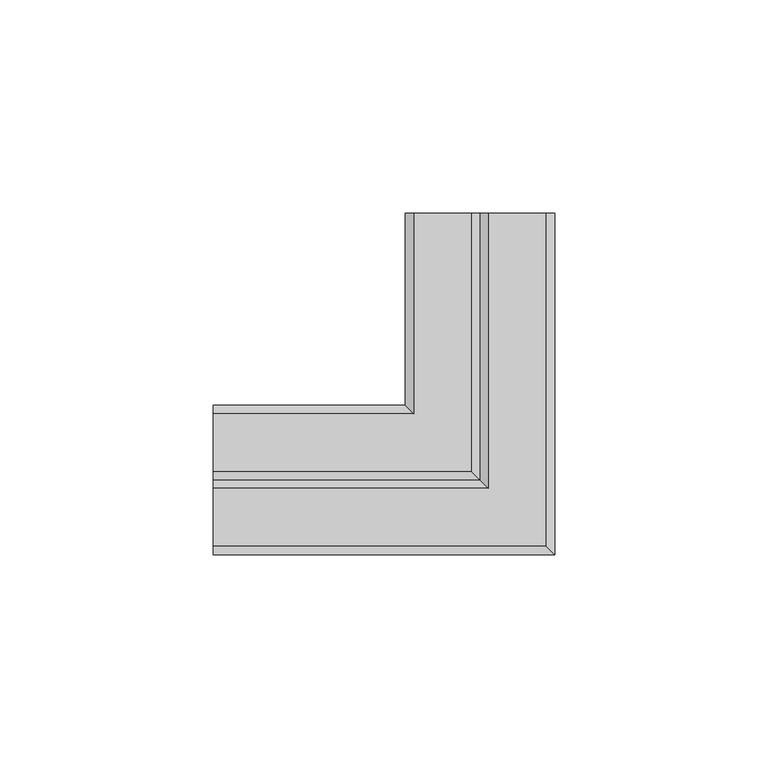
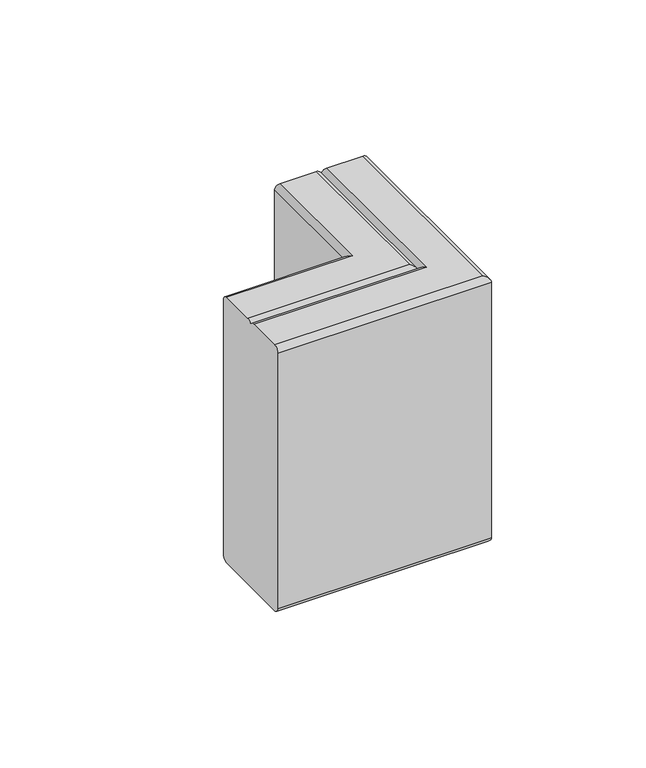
"""IFC4 building model written with IfcOpenShell, lengths in millimetres: duct fitting geometry, Угол плоский 90° - для кабель-каналов DLP - белый : 65х220мм."""

import ifcopenshell
import ifcopenshell.guid

model = None  # the IFC model being written
_history = None  # IfcOwnerHistory: only IFC2X3 demands one
_inside = {}  # id of a spatial element -> (the spatial element, [elements in it])
_under = {}  # id of a project, library or spatial element -> (it, [spatial elements below it])
_declared = {}  # id of a project -> (the project, [libraries it declares])
_typed = {}  # id of a type object -> (the type object, [elements of that type])
_made_of = {}  # id of a material, layer set ... -> (it, [elements and type objects made of it])


def new_model(schema):
    """Start an empty IFC model of exactly this schema.

    Asked for "IFC4X3", IfcOpenShell would pick the latest addendum, in which some entities
    have other attributes; the version numbers below select the first issue.
    IFC2X3 requires an IfcOwnerHistory on every rooted entity: one is made here for all.
    """
    global model, _history
    if schema == "IFC4X3":
        model = ifcopenshell.file(schema_version=(4, 3, 0, 0))
    else:
        model = ifcopenshell.file(schema=schema)
    _inside.clear()
    _under.clear()
    _declared.clear()
    _typed.clear()
    _made_of.clear()
    _history = None
    if model.schema == "IFC2X3":
        org = make("IfcOrganization", Name="unknown")
        user = make(
            "IfcPersonAndOrganization",
            ThePerson=make("IfcPerson", FamilyName="unknown"),
            TheOrganization=org,
        )
        app = make(
            "IfcApplication",
            ApplicationDeveloper=org,
            Version="unknown",
            ApplicationFullName="unknown",
            ApplicationIdentifier="unknown",
        )
        _history = make(
            "IfcOwnerHistory",
            OwningUser=user,
            OwningApplication=app,
            ChangeAction="ADDED",
            CreationDate=0,
        )
    return model


def make(cls, **values):
    """One entity of the class cls with the attributes given. An attribute that is None is left unset."""
    return model.create_entity(
        cls, **{name: value for name, value in values.items() if value is not None}
    )


def rooted(cls, **values):
    """An entity with a GlobalId (a new one), such as an element, a storey or a relation."""
    return make(cls, GlobalId=ifcopenshell.guid.new(), OwnerHistory=_history, **values)


def si_unit(unit_type, name, prefix=None):
    """IfcSIUnit, for example si_unit("LENGTHUNIT", "METRE", prefix="MILLI")."""
    return make("IfcSIUnit", UnitType=unit_type, Prefix=prefix, Name=name)


def assignment(units):
    """IfcUnitAssignment: the units of a project."""
    return None if units is None else make("IfcUnitAssignment", Units=units)


def point(xyz):
    """IfcCartesianPoint."""
    return None if xyz is None else make("IfcCartesianPoint", Coordinates=xyz)


def direction(xyz):
    """IfcDirection."""
    return None if xyz is None else make("IfcDirection", DirectionRatios=xyz)


def frame(location, z_axis=None, x_axis=None):
    """IfcAxis2Placement3D, a coordinate frame: its origin and axes. An axis left out is left unset."""
    return make(
        "IfcAxis2Placement3D",
        Location=point(location),
        Axis=direction(z_axis),
        RefDirection=direction(x_axis),
    )


def origin():
    """The frame at (0, 0, 0) with its axes left unset."""
    return frame((0.0, 0.0, 0.0))


def place(relative_to, where):
    """IfcLocalPlacement: puts the frame where relative to a parent placement (None: the world)."""
    return make(
        "IfcLocalPlacement", PlacementRelTo=relative_to, RelativePlacement=where
    )


def context(
    kind, dimensions, precision=None, world=None, true_north=None, identifier=None
):
    """IfcGeometricRepresentationContext, for example the 3D "Model" context."""
    return make(
        "IfcGeometricRepresentationContext",
        ContextIdentifier=identifier,
        ContextType=kind,
        CoordinateSpaceDimension=dimensions,
        Precision=precision,
        WorldCoordinateSystem=world,
        TrueNorth=true_north,
    )


def project(units=None, contexts=None):
    """IfcProject with its units and contexts."""
    return rooted(
        "IfcProject",
        Name="project",
        RepresentationContexts=contexts,
        UnitsInContext=assignment(units),
    )


def spatial(cls, under=None, at=None, **own):
    """A site, building, storey or space (cls), placed at a placement, below another one or the project."""
    s = rooted(cls, ObjectPlacement=at, **own)
    if under is not None:
        _under.setdefault(under.id(), (under, []))[1].append(s)
    return s


def circle_curve(where, radius):
    """IfcCircle in the frame where."""
    return make("IfcCircle", Position=where, Radius=radius)


def ellipse_curve(where, semi_axis1, semi_axis2):
    """IfcEllipse in the frame where."""
    return make(
        "IfcEllipse", Position=where, SemiAxis1=semi_axis1, SemiAxis2=semi_axis2
    )


def shape(context_of_items, identifier, shape_type, items):
    """IfcShapeRepresentation: the items that make up one representation, for example the "Body"."""
    return make(
        "IfcShapeRepresentation",
        ContextOfItems=context_of_items,
        RepresentationIdentifier=identifier,
        RepresentationType=shape_type,
        Items=items,
    )


def source(mapping_origin, context_of_items, identifier, shape_type, items):
    """IfcRepresentationMap: a shape defined once, which mapped items show again and again."""
    return make(
        "IfcRepresentationMap",
        MappingOrigin=mapping_origin,
        MappedRepresentation=shape(context_of_items, identifier, shape_type, items),
    )


def transform(
    local_origin,
    x_axis=None,
    y_axis=None,
    z_axis=None,
    scale=None,
    scale2=None,
    scale3=None,
    uniform=True,
):
    """IfcCartesianTransformationOperator3D, or its non-uniform kind. x_axis, y_axis, z_axis: its Axis1, 2, 3."""
    if uniform:
        return make(
            "IfcCartesianTransformationOperator3D",
            Axis1=direction(x_axis),
            Axis2=direction(y_axis),
            LocalOrigin=point(local_origin),
            Scale=scale,
            Axis3=direction(z_axis),
        )
    return make(
        "IfcCartesianTransformationOperator3DnonUniform",
        Axis1=direction(x_axis),
        Axis2=direction(y_axis),
        LocalOrigin=point(local_origin),
        Scale=scale,
        Axis3=direction(z_axis),
        Scale2=scale2,
        Scale3=scale3,
    )


def mapped(mapping_source, mapping_target):
    """IfcMappedItem: shows the shape of a source again, moved by a transform."""
    return make(
        "IfcMappedItem", MappingSource=mapping_source, MappingTarget=mapping_target
    )


def made_of(thing, what):
    """Note that an element or type object is made of a material, layer set ...; save() writes the relation."""
    if what is not None:
        _made_of.setdefault(what.id(), (what, []))[1].append(thing)
    return thing


def element(
    cls,
    number,
    at=None,
    inside=None,
    cuts=None,
    type_object=None,
    material=None,
    context=None,
    identifier="Body",
    shape_type=None,
    held_by="IfcProductDefinitionShape",
    body=None,
    shapes=None,
    **own,
):
    """One element of the class cls, such as IfcWall. Its Tag is "e" and its number.

    at: its placement. inside: the storey or other place that contains it. cuts: it is an
    opening in that element (IfcRelVoidsElement). A single representation is given by context,
    identifier, shape_type and body (its items); several are given by shapes. held_by: the class
    of the entity that holds the representations. save() writes the other relations.
    """
    e = rooted(cls, Tag="e%d" % number, ObjectPlacement=at, **own)
    if body is not None:
        shapes = [shape(context, identifier, shape_type, body)]
    if shapes is not None:
        e.Representation = make(held_by, Representations=shapes)
    if inside is not None:
        _inside.setdefault(inside.id(), (inside, []))[1].append(e)
    if cuts is not None:
        rooted(
            "IfcRelVoidsElement", RelatingBuildingElement=cuts, RelatedOpeningElement=e
        )
    if type_object is not None:
        _typed.setdefault(type_object.id(), (type_object, []))[1].append(e)
    return made_of(e, material)


def aggregate(whole, parts):
    """IfcRelAggregates: a whole, such as a stair, and the parts it consists of."""
    return rooted("IfcRelAggregates", RelatingObject=whole, RelatedObjects=parts)


def save(model, path):
    """Write the relations noted so far, then the file.

    IfcRelAggregates (storeys below a building ...), IfcRelContainedInSpatialStructure (elements
    in a storey), IfcRelDefinesByType, IfcRelAssociatesMaterial and IfcRelDeclares: one each for
    every whole, place, type object, material and project.
    """
    for whole, parts in _under.values():
        aggregate(whole, parts)
    for where, things in _inside.values():
        rooted(
            "IfcRelContainedInSpatialStructure",
            RelatedElements=things,
            RelatingStructure=where,
        )
    for kind, things in _typed.values():
        rooted("IfcRelDefinesByType", RelatedObjects=things, RelatingType=kind)
    for what, things in _made_of.values():
        rooted("IfcRelAssociatesMaterial", RelatedObjects=things, RelatingMaterial=what)
    for by, libraries in _declared.values():
        rooted("IfcRelDeclares", RelatingContext=by, RelatedDefinitions=libraries)
    model.write(path)


def plane_surface(at):
    """IfcPlane: the flat surface through the origin of the frame at, square to its z axis."""
    return make("IfcPlane", Position=at)


def cylinder_surface(at, radius):
    """IfcCylindricalSurface: all points at the distance radius from the z axis of the frame at."""
    return make("IfcCylindricalSurface", Position=at, Radius=radius)


def advanced_brep(points, edges, surfaces, faces):
    """IfcAdvancedBrep: a solid bounded by faces that lie on surfaces and meet in shared edges.

    An edge is (start, end): straight between two places in points (the first is 0);
    or (start, end, curve); or (start, end, curve, False) where it runs against its curve.
    A face is (place in surfaces, loops), or (place, loops, False) where it looks against
    its surface's normal. A loop lists edges by number (the first is 1), with a minus sign
    where the edge is run from its end to its start. The first loop is the outer one.
    """
    corners = [point(p) for p in points]
    vertices = [make("IfcVertexPoint", VertexGeometry=c) for c in corners]
    made = []
    for start, end, *more in edges:
        made.append(
            make(
                "IfcEdgeCurve",
                EdgeStart=vertices[start],
                EdgeEnd=vertices[end],
                EdgeGeometry=more[0] if more else make("IfcPolyline", Points=[corners[start], corners[end]]),
                SameSense=more[1] if len(more) > 1 else True,
            )
        )
    hull = []
    for where, loops, *sense in faces:
        bounds = []
        for j, loop in enumerate(loops):
            ring = [make("IfcOrientedEdge", EdgeElement=made[abs(k) - 1], Orientation=k > 0) for k in loop]
            bounds.append(
                make(
                    "IfcFaceOuterBound" if j == 0 else "IfcFaceBound",
                    Bound=make("IfcEdgeLoop", EdgeList=ring),
                    Orientation=True,
                )
            )
        hull.append(make("IfcAdvancedFace", Bounds=bounds, FaceSurface=surfaces[where], SameSense=sense[0] if sense else True))
    return make("IfcAdvancedBrep", Outer=make("IfcClosedShell", CfsFaces=hull))


def duct_fitting_be0ce938(model_context):
    return source(origin(), model_context, "Body", "AdvancedBrep", [
        advanced_brep(
        [(-2.0, 62.5, 49.5407457), (0.0, 62.5, 47.5407457), (2.0, 62.5, 49.5407457), (15.5, 62.5, 49.5407457), (17.5, 62.5, 47.5407457), (17.5, 62.5, -53.4592543), (15.5, 62.5, -55.4592543), (-15.5, 62.5, -55.4592543), (-17.5, 62.5, -53.4592543), (-17.5, 62.5, 47.5407457), (-15.5, 62.5, 49.5407457), (15.5, -15.5, 49.5407457), (17.5, -17.5, 47.5407457), (17.5, -17.5, -53.4592543), (15.5, -15.5, -55.4592543), (-62.5, -15.5, -55.4592543), (-62.5, 15.5, -55.4592543), (-15.5, 15.5, -55.4592543), (-17.5, 17.5, -53.4592543), (-17.5, 17.5, 47.5407457), (-15.5, 15.5, 49.5407457), (-62.5, 15.5, 49.5407457), (-62.5, 2.0, 49.5407457), (-2.0, 2.0, 49.5407457), (-62.5, 17.5, 47.5407457), (-62.5, 17.5, -53.4592543), (-62.5, -17.5, -53.4592543), (-62.5, -17.5, 47.5407457), (-62.5, -15.5, 49.5407457), (-62.5, -2.0, 49.5407457), (-62.5, 0.0, 47.5407457), (0.0, 0.0, 47.5407457), (2.0, -2.0, 49.5407457)],
        [
            (0, 1, circle_curve(frame((-2.0, 62.5, 47.5407457), z_axis=(0.0, 1.0, 0.0), x_axis=(1.0, 0.0, 0.0)), 2.0)),
            (1, 2, circle_curve(frame((2.0, 62.5, 47.5407457), z_axis=(0.0, 1.0, 0.0), x_axis=(1.0, 0.0, 0.0)), 2.0)),
            (2, 3),
            (3, 4, circle_curve(frame((15.5, 62.5, 47.5407457), z_axis=(0.0, 1.0, 0.0), x_axis=(1.0, 0.0, 0.0)), 2.0)),
            (4, 5),
            (5, 6, circle_curve(frame((15.5, 62.5, -53.4592543), z_axis=(0.0, 1.0, 0.0), x_axis=(1.0, 0.0, 0.0)), 2.0)),
            (6, 7),
            (7, 8, circle_curve(frame((-15.5, 62.5, -53.4592543), z_axis=(0.0, 1.0, 0.0), x_axis=(1.0, 0.0, 0.0)), 2.0)),
            (8, 9),
            (9, 10, circle_curve(frame((-15.5, 62.5, 47.5407457), z_axis=(0.0, 1.0, 0.0), x_axis=(1.0, 0.0, 0.0)), 2.0)),
            (10, 0),
            (3, 11),
            (11, 12, ellipse_curve(frame((15.5, -15.5, 47.5407457), z_axis=(0.7071067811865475, 0.7071067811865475, 0.0), x_axis=(-0.7071067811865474, 0.7071067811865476, 0.0)), 2.8284271, 2.0)),
            (12, 4),
            (12, 13),
            (13, 5),
            (13, 14, ellipse_curve(frame((15.5, -15.5, -53.4592543), z_axis=(0.7071067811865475, 0.7071067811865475, 0.0), x_axis=(-0.7071067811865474, 0.7071067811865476, 0.0)), 2.8284271, 2.0)),
            (14, 6),
            (14, 15),
            (15, 16),
            (16, 17),
            (17, 7),
            (17, 18, ellipse_curve(frame((-15.5, 15.5, -53.4592543), z_axis=(0.7071067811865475, 0.7071067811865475, 0.0), x_axis=(-0.7071067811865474, 0.7071067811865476, 0.0)), 2.8284271, 2.0)),
            (18, 8),
            (18, 19),
            (19, 9),
            (19, 20, ellipse_curve(frame((-15.5, 15.5, 47.5407457), z_axis=(0.7071067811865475, 0.7071067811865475, 0.0), x_axis=(-0.7071067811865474, 0.7071067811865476, 0.0)), 2.8284271, 2.0)),
            (20, 10),
            (20, 21),
            (21, 22),
            (22, 23),
            (23, 0),
            (21, 24, circle_curve(frame((-62.5, 15.5, 47.5407457), z_axis=(-1.0, 0.0, 0.0), x_axis=(0.0, -1.0, 0.0)), 2.0)),
            (24, 25),
            (25, 16, circle_curve(frame((-62.5, 15.5, -53.4592543), z_axis=(-1.0, 0.0, 0.0), x_axis=(0.0, -1.0, 0.0)), 2.0)),
            (15, 26, circle_curve(frame((-62.5, -15.5, -53.4592543), z_axis=(-1.0, 0.0, 0.0), x_axis=(0.0, -1.0, 0.0)), 2.0)),
            (26, 27),
            (27, 28, circle_curve(frame((-62.5, -15.5, 47.5407457), z_axis=(-1.0, 0.0, 0.0), x_axis=(0.0, -1.0, 0.0)), 2.0)),
            (28, 29),
            (29, 30, circle_curve(frame((-62.5, -2.0, 47.5407457), z_axis=(-1.0, 0.0, 0.0), x_axis=(0.0, -1.0, 0.0)), 2.0)),
            (30, 22, circle_curve(frame((-62.5, 2.0, 47.5407457), z_axis=(-1.0, 0.0, 0.0), x_axis=(0.0, -1.0, 0.0)), 2.0)),
            (11, 28),
            (27, 12),
            (26, 13),
            (25, 18),
            (24, 19),
            (23, 31, ellipse_curve(frame((-2.0, 2.0, 47.5407457), z_axis=(0.7071067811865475, 0.7071067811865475, 0.0), x_axis=(-0.7071067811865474, 0.7071067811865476, 0.0)), 2.8284271, 2.0)),
            (31, 1),
            (31, 32, ellipse_curve(frame((2.0, -2.0, 47.5407457), z_axis=(0.7071067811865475, 0.7071067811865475, 0.0), x_axis=(-0.7071067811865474, 0.7071067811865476, 0.0)), 2.8284271, 2.0)),
            (32, 2),
            (32, 29),
            (30, 31),
        ],
        [
            plane_surface(frame((0.0, 62.5, -2.9592543), z_axis=(0.0, 1.0, 0.0), x_axis=(0.0, 0.0, 1.0))),
            cylinder_surface(frame((15.5, 62.5, 47.5407457), z_axis=(0.0, 1.0, 0.0), x_axis=(1.0, 0.0, 0.0)), 2.0),
            plane_surface(frame((17.5, 62.5, 47.5407457), z_axis=(1.0, 0.0, 0.0), x_axis=(0.0, -1.0, 0.0))),
            cylinder_surface(frame((15.5, 62.5, -53.4592543), z_axis=(0.0, 1.0, 0.0), x_axis=(1.0, 0.0, 0.0)), 2.0),
            plane_surface(frame((15.5, 62.5, -55.4592543), z_axis=(0.0, 0.0, -1.0), x_axis=(0.0, -1.0, 0.0))),
            cylinder_surface(frame((-15.5, 62.5, -53.4592543), z_axis=(0.0, 1.0, 0.0), x_axis=(1.0, 0.0, 0.0)), 2.0),
            plane_surface(frame((-17.5, 62.5, -53.4592543), z_axis=(-1.0, 0.0, 0.0), x_axis=(0.0, -1.0, 0.0))),
            cylinder_surface(frame((-15.5, 62.5, 47.5407457), z_axis=(0.0, 1.0, 0.0), x_axis=(1.0, 0.0, 0.0)), 2.0),
            plane_surface(frame((-15.5, 62.5, 49.5407457), z_axis=(0.0, 0.0, 1.0), x_axis=(0.0, -1.0, 0.0))),
            plane_surface(frame((-62.5, 0.0, -2.9592543), z_axis=(-1.0, 0.0, 0.0), x_axis=(0.0, 0.0, 1.0))),
            cylinder_surface(frame((0.0, -15.5, 47.5407457), z_axis=(1.0, 0.0, 0.0), x_axis=(0.0, -1.0, 0.0)), 2.0),
            plane_surface(frame((17.5, -17.5, 47.5407457), z_axis=(0.0, -1.0, 0.0), x_axis=(-1.0, 0.0, 0.0))),
            cylinder_surface(frame((0.0, -15.5, -53.4592543), z_axis=(1.0, 0.0, 0.0), x_axis=(0.0, -1.0, 0.0)), 2.0),
            cylinder_surface(frame((0.0, 15.5, -53.4592543), z_axis=(1.0, 0.0, 0.0), x_axis=(0.0, -1.0, 0.0)), 2.0),
            plane_surface(frame((-17.5, 17.5, -53.4592543), z_axis=(0.0, 1.0, 0.0), x_axis=(-1.0, 0.0, 0.0))),
            cylinder_surface(frame((0.0, 15.5, 47.5407457), z_axis=(1.0, 0.0, 0.0), x_axis=(0.0, -1.0, 0.0)), 2.0),
            cylinder_surface(frame((-2.0, 62.5, 47.5407457), z_axis=(0.0, 1.0, 0.0), x_axis=(1.0, 0.0, 0.0)), 2.0),
            cylinder_surface(frame((2.0, 62.5, 47.5407457), z_axis=(0.0, 1.0, 0.0), x_axis=(1.0, 0.0, 0.0)), 2.0),
            plane_surface(frame((2.0, 62.5, 49.5407457), z_axis=(0.0, 0.0, 1.0), x_axis=(0.0, -1.0, 0.0))),
            cylinder_surface(frame((0.0, 2.0, 47.5407457), z_axis=(1.0, 0.0, 0.0), x_axis=(0.0, -1.0, 0.0)), 2.0),
            cylinder_surface(frame((0.0, -2.0, 47.5407457), z_axis=(1.0, 0.0, 0.0), x_axis=(0.0, -1.0, 0.0)), 2.0),
        ],
        [
            (0, [[1, 2, 3, 4, 5, 6, 7, 8, 9, 10, 11]]),
            (1, [[-4, 12, 13, 14]]),
            (2, [[-5, -14, 15, 16]]),
            (3, [[-6, -16, 17, 18]]),
            (4, [[-7, -18, 19, 20, 21, 22]]),
            (5, [[-8, -22, 23, 24]]),
            (6, [[-9, -24, 25, 26]]),
            (7, [[-10, -26, 27, 28]]),
            (8, [[-11, -28, 29, 30, 31, 32]]),
            (9, [[-30, 33, 34, 35, -20, 36, 37, 38, 39, 40, 41]]),
            (10, [[-13, 42, -38, 43]]),
            (11, [[-15, -43, -37, 44]]),
            (12, [[-17, -44, -36, -19]]),
            (13, [[-23, -21, -35, 45]]),
            (14, [[-25, -45, -34, 46]]),
            (15, [[-27, -46, -33, -29]]),
            (16, [[-1, -32, 47, 48]]),
            (17, [[-2, -48, 49, 50]]),
            (18, [[-3, -50, 51, -39, -42, -12]]),
            (19, [[-47, -31, -41, 52]]),
            (20, [[-49, -52, -40, -51]]),
        ],
    ),
    ])


if __name__ == "__main__":
    model = new_model("IFC4")
    model_context = context("Model", 3, world=origin())
    ifc_project = project(units=[si_unit("LENGTHUNIT", "METRE", prefix="MILLI")], contexts=[model_context])
    site = spatial("IfcSite", under=ifc_project)
    building = spatial("IfcBuilding", under=site)
    placement = place(None, origin())
    duct_fitting_shape = duct_fitting_be0ce938(model_context)
    element("IfcDuctFitting", 1, ObjectType="Угол плоский 90° - для кабель-каналов DLP - белый : 65х220мм", at=placement, inside=building, context=model_context, shape_type="MappedRepresentation", body=[
        mapped(duct_fitting_shape, transform((0.0, 0.0, 0.0), x_axis=(1.0, 0.0, 0.0), y_axis=(0.0, 1.0, 0.0), z_axis=(0.0, 0.0, 1.0))),
    ])
    save(model, "model.ifc")
